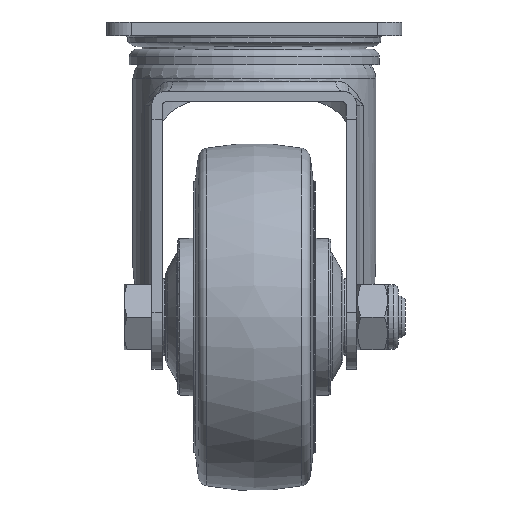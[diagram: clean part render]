
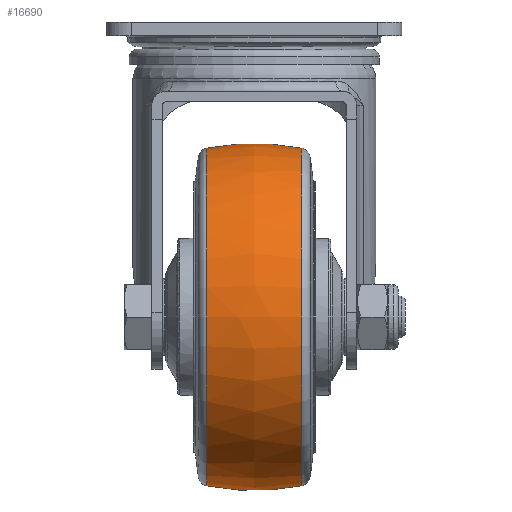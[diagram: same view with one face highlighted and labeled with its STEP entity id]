
A CAD part, front view. The second image highlights one B-rep face of the part: STEP entity #16690.
In plain terms, the highlighted free-form (B-spline) face has degree [2, 2] with [3, 9] control points.
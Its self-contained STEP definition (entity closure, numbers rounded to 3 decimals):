
#194=(
BOUNDED_CURVE()
B_SPLINE_CURVE(2,(#24001,#24002,#24003),.UNSPECIFIED.,.F.,.F.)
B_SPLINE_CURVE_WITH_KNOTS((3,3),(-0.198,0.198),
 .UNSPECIFIED.)
CURVE()
GEOMETRIC_REPRESENTATION_ITEM()
RATIONAL_B_SPLINE_CURVE((1.,0.981,1.))
REPRESENTATION_ITEM('')
);
#249=(
BOUNDED_SURFACE()
B_SPLINE_SURFACE(2,2,((#23970,#23971,#23972,#23973,#23974,#23975,#23976,
#23977,#23978),(#23979,#23980,#23981,#23982,#23983,#23984,#23985,#23986,
#23987),(#23988,#23989,#23990,#23991,#23992,#23993,#23994,#23995,#23996)),
 .UNSPECIFIED.,.F.,.T.,.F.)
B_SPLINE_SURFACE_WITH_KNOTS((3,3),(3,2,2,2,3),(-0.198,0.198),
(-3.142,-1.571,0.,1.571,3.142),
 .UNSPECIFIED.)
GEOMETRIC_REPRESENTATION_ITEM()
RATIONAL_B_SPLINE_SURFACE(((1.,0.707,1.,0.707,1.,
0.707,1.,0.707,1.),(0.981,0.693,
0.981,0.693,0.981,0.693,
0.981,0.693,0.981),(1.,0.707,
1.,0.707,1.,0.707,1.,0.707,1.)))
REPRESENTATION_ITEM('')
SURFACE()
);
#4777=FACE_OUTER_BOUND('',#5815,.T.);
#5815=EDGE_LOOP('',(#11833,#11834,#11835,#11836,#11837,#11838));
#7041=CIRCLE('',#17792,48.637);
#7042=CIRCLE('',#17793,48.637);
#7043=CIRCLE('',#17794,48.637);
#7044=CIRCLE('',#17795,48.637);
#7824=VERTEX_POINT('',#23966);
#7825=VERTEX_POINT('',#23967);
#7826=VERTEX_POINT('',#23997);
#7827=VERTEX_POINT('',#23998);
#9392=EDGE_CURVE('',#7824,#7825,#7041,.T.);
#9393=EDGE_CURVE('',#7825,#7824,#7042,.T.);
#9394=EDGE_CURVE('',#7826,#7827,#7043,.T.);
#9395=EDGE_CURVE('',#7827,#7826,#7044,.T.);
#9396=EDGE_CURVE('',#7827,#7825,#194,.T.);
#11833=ORIENTED_EDGE('',*,*,#9394,.F.);
#11834=ORIENTED_EDGE('',*,*,#9395,.F.);
#11835=ORIENTED_EDGE('',*,*,#9396,.T.);
#11836=ORIENTED_EDGE('',*,*,#9392,.F.);
#11837=ORIENTED_EDGE('',*,*,#9393,.F.);
#11838=ORIENTED_EDGE('',*,*,#9396,.F.);
#16690=ADVANCED_FACE('',(#4777),#249,.F.);
#17792=AXIS2_PLACEMENT_3D('',#23968,#19498,#19499);
#17793=AXIS2_PLACEMENT_3D('',#23969,#19500,#19501);
#17794=AXIS2_PLACEMENT_3D('',#23999,#19502,#19503);
#17795=AXIS2_PLACEMENT_3D('',#24000,#19504,#19505);
#19498=DIRECTION('center_axis',(-1.,0.,0.));
#19499=DIRECTION('ref_axis',(0.,-1.,0.));
#19500=DIRECTION('center_axis',(-1.,0.,0.));
#19501=DIRECTION('ref_axis',(0.,-1.,0.));
#19502=DIRECTION('center_axis',(1.,0.,0.));
#19503=DIRECTION('ref_axis',(0.,-1.,0.));
#19504=DIRECTION('center_axis',(1.,0.,0.));
#19505=DIRECTION('ref_axis',(0.,-1.,0.));
#23966=CARTESIAN_POINT('',(-13.744,13.637,-85.));
#23967=CARTESIAN_POINT('',(-13.744,-35.,-36.363));
#23968=CARTESIAN_POINT('Origin',(-13.744,-35.,-85.));
#23969=CARTESIAN_POINT('Origin',(-13.744,-35.,-85.));
#23970=CARTESIAN_POINT('Ctrl Pts',(-13.744,-35.,
-36.363));
#23971=CARTESIAN_POINT('Ctrl Pts',(-13.744,-83.637,
-36.363));
#23972=CARTESIAN_POINT('Ctrl Pts',(-13.744,-83.637,
-85.));
#23973=CARTESIAN_POINT('Ctrl Pts',(-13.744,-83.637,
-133.637));
#23974=CARTESIAN_POINT('Ctrl Pts',(-13.744,-35.,
-133.637));
#23975=CARTESIAN_POINT('Ctrl Pts',(-13.744,13.637,-133.637));
#23976=CARTESIAN_POINT('Ctrl Pts',(-13.744,13.637,-85.));
#23977=CARTESIAN_POINT('Ctrl Pts',(-13.744,13.637,-36.363));
#23978=CARTESIAN_POINT('Ctrl Pts',(-13.744,-35.,
-36.363));
#23979=CARTESIAN_POINT('Ctrl Pts',(0.,-35.,
-33.61));
#23980=CARTESIAN_POINT('Ctrl Pts',(0.,-86.39,
-33.61));
#23981=CARTESIAN_POINT('Ctrl Pts',(0.,-86.39,
-85.));
#23982=CARTESIAN_POINT('Ctrl Pts',(0.,-86.39,
-136.39));
#23983=CARTESIAN_POINT('Ctrl Pts',(0.,-35.,
-136.39));
#23984=CARTESIAN_POINT('Ctrl Pts',(0.,16.39,
-136.39));
#23985=CARTESIAN_POINT('Ctrl Pts',(0.,16.39,
-85.));
#23986=CARTESIAN_POINT('Ctrl Pts',(0.,16.39,
-33.61));
#23987=CARTESIAN_POINT('Ctrl Pts',(0.,-35.,
-33.61));
#23988=CARTESIAN_POINT('Ctrl Pts',(13.744,-35.,-36.363));
#23989=CARTESIAN_POINT('Ctrl Pts',(13.744,-83.637,-36.363));
#23990=CARTESIAN_POINT('Ctrl Pts',(13.744,-83.637,-85.));
#23991=CARTESIAN_POINT('Ctrl Pts',(13.744,-83.637,-133.637));
#23992=CARTESIAN_POINT('Ctrl Pts',(13.744,-35.,-133.637));
#23993=CARTESIAN_POINT('Ctrl Pts',(13.744,13.637,-133.637));
#23994=CARTESIAN_POINT('Ctrl Pts',(13.744,13.637,-85.));
#23995=CARTESIAN_POINT('Ctrl Pts',(13.744,13.637,-36.363));
#23996=CARTESIAN_POINT('Ctrl Pts',(13.744,-35.,-36.363));
#23997=CARTESIAN_POINT('',(13.744,13.637,-85.));
#23998=CARTESIAN_POINT('',(13.744,-35.,-36.363));
#23999=CARTESIAN_POINT('Origin',(13.744,-35.,-85.));
#24000=CARTESIAN_POINT('Origin',(13.744,-35.,-85.));
#24001=CARTESIAN_POINT('Ctrl Pts',(13.744,-35.,-36.363));
#24002=CARTESIAN_POINT('Ctrl Pts',(0.,-35.,
-33.61));
#24003=CARTESIAN_POINT('Ctrl Pts',(-13.744,-35.,
-36.363));
